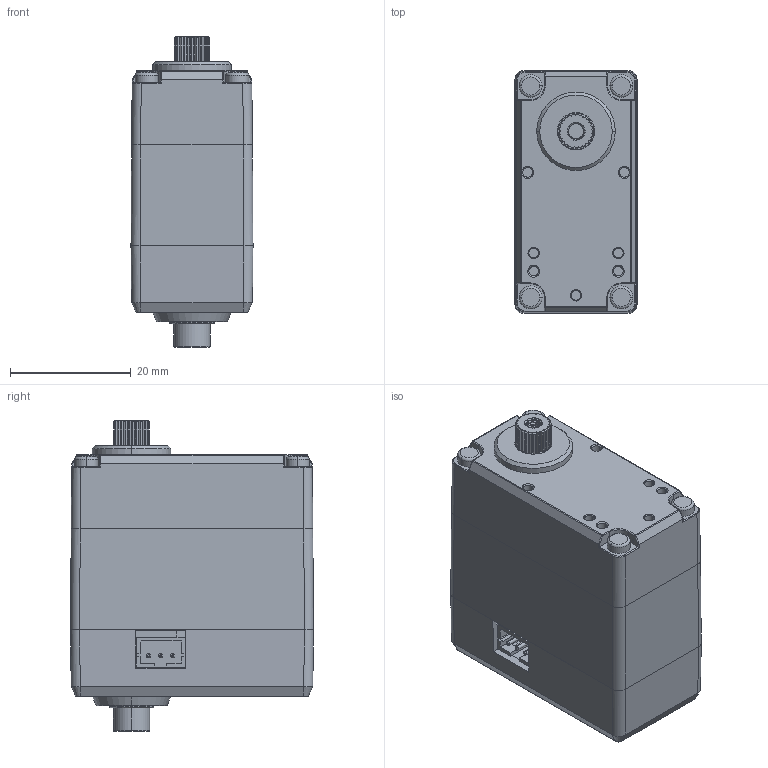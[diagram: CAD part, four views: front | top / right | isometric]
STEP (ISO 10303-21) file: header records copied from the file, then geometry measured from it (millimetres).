
FILE_DESCRIPTION((''),'2;1');
FILE_NAME('SCS15_WITH-BRACKET-20220928_ASM','2022-10-06T',('WUSALT01'),(''),'PRO/ENGINEER BY PARAMETRIC TECHNOLOGY CORPORATION, 2008380','PRO/ENGINEER BY PARAMETRIC TECHNOLOGY CORPORATION, 2008380','');
FILE_SCHEMA(('AUTOMOTIVE_DESIGN_CC2 { 1 2 10303 214 -1 1 5 2 }'));
Length unit declared in the file: millimetre
Products named in the file (15): SJ-WK00-0054-TOPCABINET_39; SJ-WK00-0057-BOTTOMCASE_45; SJ-WK00-0056-MIDDLECASE-TTL_79; OUTPUTGEAR_12; OUTGEAR_ASM_6_ASM_ASM; SC15-PCB-A_16; PAIZHING2-54_1; MAINPCB-PH2-AMP-20210107_1; AMP-3PIN_ASM_8_ASM_ASM; SCS40-PCBA_ASM_9_ASM_ASM; M20X30_3; SCS15_ASM_87_ASM_ASM; PH2-3PIN_1; SCS15_20220928_ASM_ASM; SCS15_WITH-BRACKET-20220928_ASM
Assembly tree (18 placements, depth 6):
  SCS15_WITH-BRACKET-20220928_ASM
    SCS15_20220928_ASM_ASM
      SCS15_ASM_87_ASM_ASM
        SJ-WK00-0054-TOPCABINET_39
        SJ-WK00-0057-BOTTOMCASE_45
        SJ-WK00-0056-MIDDLECASE-TTL_79
        OUTGEAR_ASM_6_ASM_ASM
          OUTPUTGEAR_12
        SCS40-PCBA_ASM_9_ASM_ASM
          SC15-PCB-A_16
          PAIZHING2-54_1
          AMP-3PIN_ASM_8_ASM_ASM
            MAINPCB-PH2-AMP-20210107_1
        M20X30_3  x4
      PH2-3PIN_1  x2
Bounding box: 20.2 x 40.2 x 51.4 mm (x, y, z)
Volume: 11025.4 mm3; surface area: 17308.5 mm2
Topology: 13 solids, 13 shells, 1312 faces, 3746 edges, 2501 vertices
Faces by surface type: cylinder 567, plane 379, cone 186, extrusion 86, bspline 50, torus 36, sphere 8
Entity records: 48426 total; most frequent: CARTESIAN_POINT 16210, ORIENTED_EDGE 6924, DIRECTION 6587, EDGE_CURVE 3462, AXIS2_PLACEMENT_3D 2555, VERTEX_POINT 2330, VECTOR 1477, CIRCLE 1427
